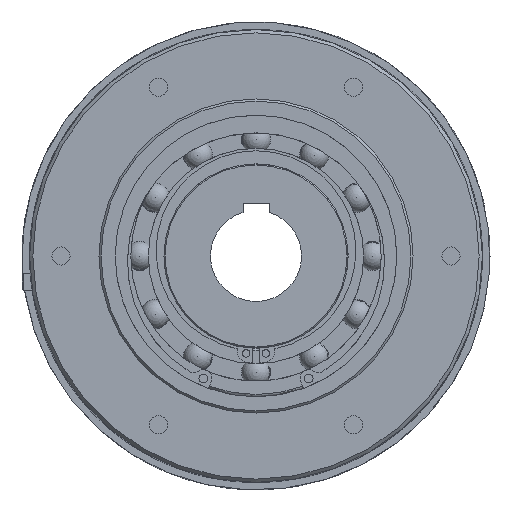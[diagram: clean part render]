
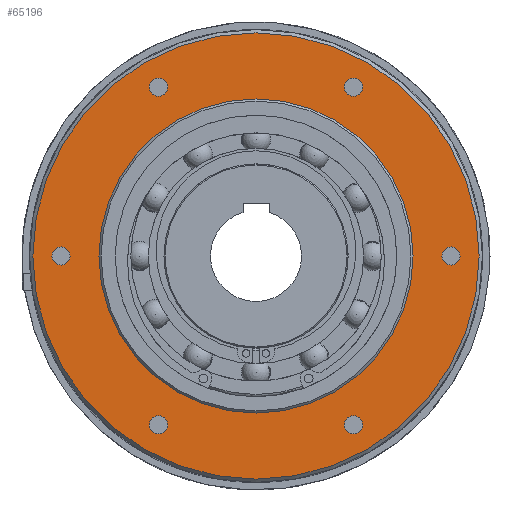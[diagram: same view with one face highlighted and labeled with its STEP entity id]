
A CAD part, left-side view. The second image highlights one B-rep face of the part: STEP entity #65196.
In plain terms, the highlighted planar face has unit normal (-1, 0, 0).
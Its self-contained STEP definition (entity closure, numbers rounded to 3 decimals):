
#4938=FACE_BOUND('',#16259,.T.);
#4939=FACE_BOUND('',#16260,.T.);
#4940=FACE_BOUND('',#16261,.T.);
#4941=FACE_BOUND('',#16262,.T.);
#4942=FACE_BOUND('',#16263,.T.);
#4943=FACE_BOUND('',#16264,.T.);
#4944=FACE_BOUND('',#16265,.T.);
#9208=CIRCLE('',#71032,4.188);
#9210=CIRCLE('',#71035,4.188);
#9212=CIRCLE('',#71038,4.188);
#9214=CIRCLE('',#71041,4.188);
#9216=CIRCLE('',#71044,4.188);
#9218=CIRCLE('',#71047,4.188);
#9221=CIRCLE('',#71052,72.5);
#9222=CIRCLE('',#71054,103.);
#12897=FACE_OUTER_BOUND('',#16258,.T.);
#16258=EDGE_LOOP('',(#47609));
#16259=EDGE_LOOP('',(#47610));
#16260=EDGE_LOOP('',(#47611));
#16261=EDGE_LOOP('',(#47612));
#16262=EDGE_LOOP('',(#47613));
#16263=EDGE_LOOP('',(#47614));
#16264=EDGE_LOOP('',(#47615));
#16265=EDGE_LOOP('',(#47616));
#26981=VERTEX_POINT('',#108889);
#26983=VERTEX_POINT('',#108894);
#26985=VERTEX_POINT('',#108899);
#26987=VERTEX_POINT('',#108904);
#26989=VERTEX_POINT('',#108909);
#26991=VERTEX_POINT('',#108914);
#26994=VERTEX_POINT('',#108922);
#26995=VERTEX_POINT('',#108925);
#34973=EDGE_CURVE('',#26981,#26981,#9208,.T.);
#34975=EDGE_CURVE('',#26983,#26983,#9210,.T.);
#34977=EDGE_CURVE('',#26985,#26985,#9212,.T.);
#34979=EDGE_CURVE('',#26987,#26987,#9214,.T.);
#34981=EDGE_CURVE('',#26989,#26989,#9216,.T.);
#34983=EDGE_CURVE('',#26991,#26991,#9218,.T.);
#34986=EDGE_CURVE('',#26994,#26994,#9221,.T.);
#34987=EDGE_CURVE('',#26995,#26995,#9222,.T.);
#47609=ORIENTED_EDGE('',*,*,#34987,.F.);
#47610=ORIENTED_EDGE('',*,*,#34973,.T.);
#47611=ORIENTED_EDGE('',*,*,#34975,.T.);
#47612=ORIENTED_EDGE('',*,*,#34977,.T.);
#47613=ORIENTED_EDGE('',*,*,#34979,.T.);
#47614=ORIENTED_EDGE('',*,*,#34981,.T.);
#47615=ORIENTED_EDGE('',*,*,#34983,.T.);
#47616=ORIENTED_EDGE('',*,*,#34986,.T.);
#62631=PLANE('',#71053);
#65196=ADVANCED_FACE('',(#12897,#4938,#4939,#4940,#4941,#4942,#4943,#4944),
#62631,.T.);
#71032=AXIS2_PLACEMENT_3D('',#108890,#85568,#85569);
#71035=AXIS2_PLACEMENT_3D('',#108895,#85574,#85575);
#71038=AXIS2_PLACEMENT_3D('',#108900,#85580,#85581);
#71041=AXIS2_PLACEMENT_3D('',#108905,#85586,#85587);
#71044=AXIS2_PLACEMENT_3D('',#108910,#85592,#85593);
#71047=AXIS2_PLACEMENT_3D('',#108915,#85598,#85599);
#71052=AXIS2_PLACEMENT_3D('',#108923,#85608,#85609);
#71053=AXIS2_PLACEMENT_3D('',#108924,#85610,#85611);
#71054=AXIS2_PLACEMENT_3D('',#108926,#85612,#85613);
#85568=DIRECTION('center_axis',(1.,0.,0.));
#85569=DIRECTION('ref_axis',(0.,0.,1.));
#85574=DIRECTION('center_axis',(1.,0.,0.));
#85575=DIRECTION('ref_axis',(0.,0.,1.));
#85580=DIRECTION('center_axis',(1.,0.,0.));
#85581=DIRECTION('ref_axis',(0.,0.,1.));
#85586=DIRECTION('center_axis',(1.,0.,0.));
#85587=DIRECTION('ref_axis',(0.,0.,1.));
#85592=DIRECTION('center_axis',(1.,0.,0.));
#85593=DIRECTION('ref_axis',(0.,0.,1.));
#85598=DIRECTION('center_axis',(1.,0.,0.));
#85599=DIRECTION('ref_axis',(0.,0.,1.));
#85608=DIRECTION('center_axis',(1.,0.,0.));
#85609=DIRECTION('ref_axis',(0.,1.,0.));
#85610=DIRECTION('center_axis',(-1.,0.,0.));
#85611=DIRECTION('ref_axis',(0.,0.,1.));
#85612=DIRECTION('center_axis',(1.,0.,0.));
#85613=DIRECTION('ref_axis',(0.,1.,0.));
#108889=CARTESIAN_POINT('',(-41.,45.,82.13));
#108890=CARTESIAN_POINT('Origin',(-41.,45.,77.942));
#108894=CARTESIAN_POINT('',(-41.,-45.,82.13));
#108895=CARTESIAN_POINT('Origin',(-41.,-45.,77.942));
#108899=CARTESIAN_POINT('',(-41.,-90.,4.188));
#108900=CARTESIAN_POINT('Origin',(-41.,-90.,0.));
#108904=CARTESIAN_POINT('',(-41.,-45.,-73.754));
#108905=CARTESIAN_POINT('Origin',(-41.,-45.,-77.942));
#108909=CARTESIAN_POINT('',(-41.,45.,-73.754));
#108910=CARTESIAN_POINT('Origin',(-41.,45.,-77.942));
#108914=CARTESIAN_POINT('',(-41.,90.,4.188));
#108915=CARTESIAN_POINT('Origin',(-41.,90.,0.));
#108922=CARTESIAN_POINT('',(-41.,72.5,0.));
#108923=CARTESIAN_POINT('Origin',(-41.,0.,0.));
#108924=CARTESIAN_POINT('Origin',(-41.,87.75,0.));
#108925=CARTESIAN_POINT('',(-41.,103.,0.));
#108926=CARTESIAN_POINT('Origin',(-41.,0.,0.));
